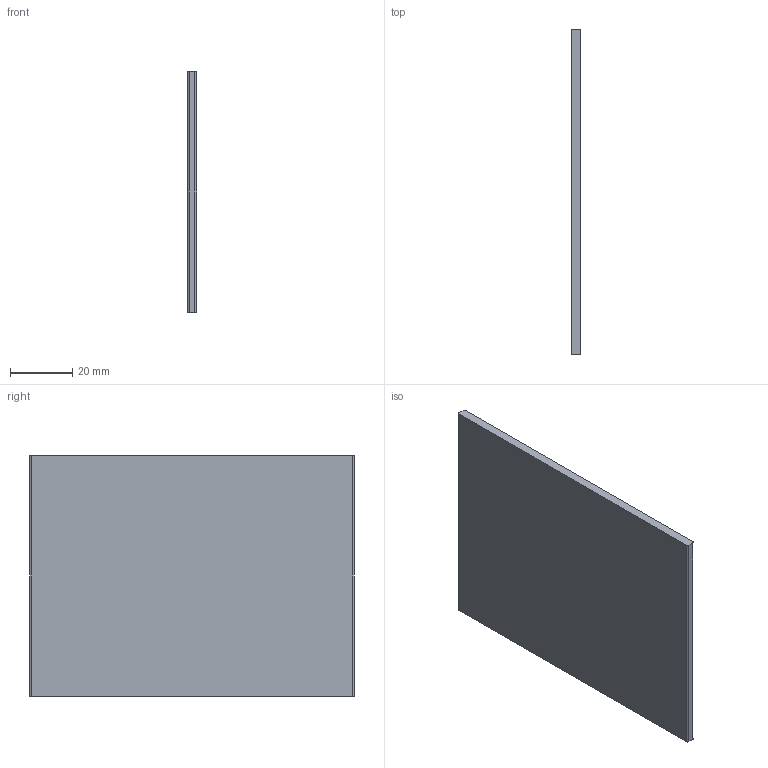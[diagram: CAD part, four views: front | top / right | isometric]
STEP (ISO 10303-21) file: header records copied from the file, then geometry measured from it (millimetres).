
FILE_DESCRIPTION(('Open CASCADE Model'),'2;1');
FILE_NAME('Open CASCADE Shape Model','2026-09-20T04:25:33',('Author'),( 'Open CASCADE'),'Open CASCADE STEP processor 7.9','Open CASCADE 7.9' ,'Unknown');
FILE_SCHEMA(('AUTOMOTIVE_DESIGN { 1 0 10303 214 1 1 1 1 }'));
Length unit declared in the file: millimetre
Products named in the file (1): Open CASCADE STEP translator 7.9 8
Bounding box: 3 x 104 x 77 mm (x, y, z)
Volume: 24000.2 mm3; surface area: 17022.1 mm2
Topology: 1 solids, 1 shells, 10 faces, 24 edges, 16 vertices
Faces by surface type: plane 6, cylinder 4
Entity records: 630 total; most frequent: CARTESIAN_POINT 123, DIRECTION 98, LINE 56, VECTOR 56, ORIENTED_EDGE 48, PCURVE 48, DEFINITIONAL_REPRESENTATION 48, EDGE_CURVE 24
